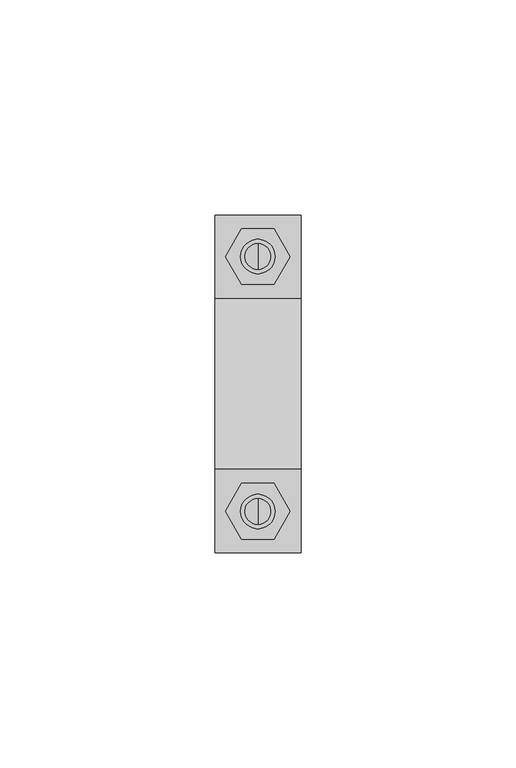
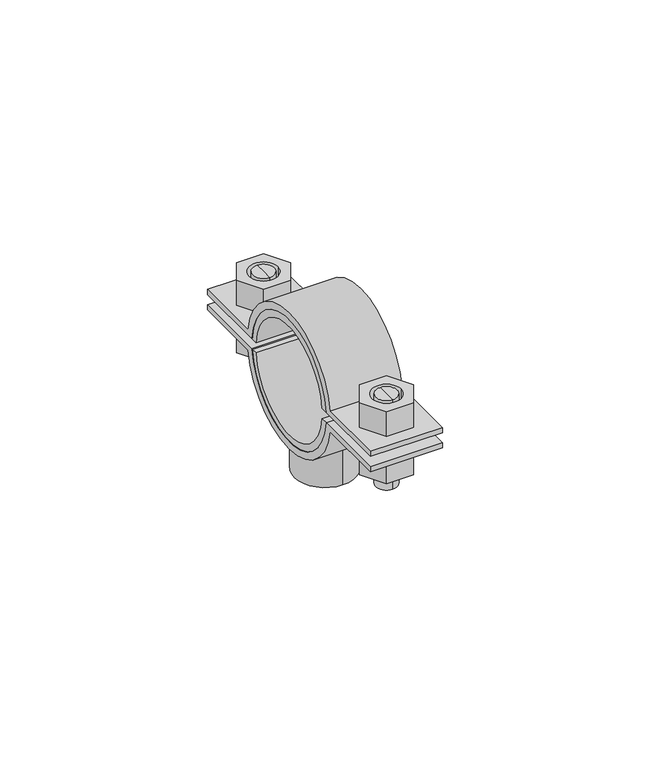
"""IFC4 building model written with IfcOpenShell, lengths in millimetres: valve geometry, Superfix DG2 Clamp Extra + : Superfix DG2 Clamp Extra +."""

from ifc_helpers import new_model, si_unit, point, frame, frame_2d, origin, origin_2d, place, context, project, spatial, polyline, circle_curve, trimmed, segment, composite_curve, outline, extrude, source, transform, mapped, element, save
from ifc_brep_helpers import plane_surface, cylinder_surface, advanced_brep


def valve_86aa1641(model_context):
    return source(origin(), model_context, "Body", "SolidModel", [
        advanced_brep(
        [(0.0, 32.625, 334.4), (0.0, 26.625, 334.4), (0.0, 26.625, 348.5), (0.0, 32.625, 348.5), (0.0, 29.625, 334.4)],
        [
            (0, 1, circle_curve(frame((0.0, 29.625, 334.4), z_axis=(0.0, 0.0, 1.0), x_axis=(0.0, 1.0, 0.0)), 3.0)),
            (1, 2),
            (2, 3, circle_curve(frame((0.0, 29.625, 348.5), z_axis=(0.0, 0.0, -1.0), x_axis=(0.0, 1.0, 0.0)), 3.0)),
            (3, 0),
            (1, 0, circle_curve(frame((0.0, 29.625, 334.4), z_axis=(0.0, 0.0, 1.0), x_axis=(0.0, 1.0, 0.0)), 3.0)),
            (3, 2, circle_curve(frame((0.0, 29.625, 348.5), z_axis=(0.0, 0.0, -1.0), x_axis=(0.0, 1.0, 0.0)), 3.0)),
            (0, 4),
            (4, 1),
        ],
        [
            cylinder_surface(frame((0.0, 29.625, 348.2806094), z_axis=(0.0, 0.0, 1.0), x_axis=(0.0, 1.0, 0.0)), 3.0),
            plane_surface(frame((0.0, 29.625, 334.4), z_axis=(0.0, 0.0, -1.0), x_axis=(0.0, 1.0, 0.0))),
            plane_surface(frame((13.75, -39.25, 348.5), z_axis=(0.0, 0.0, 1.0), x_axis=(-1.0, 0.0, 0.0))),
        ],
        [
            (0, [[1, 2, 3, 4]]),
            (0, [[5, -4, 6, -2]]),
            (1, [[-1, 7, 8]]),
            (1, [[-5, -8, -7]]),
            (2, [[-3, -6]]),
        ],
    ),
        advanced_brep(
        [(0.0, 26.625, 360.6), (0.0, 32.625, 360.6), (0.0, 32.625, 351.5), (0.0, 26.625, 351.5), (0.0, 29.625, 360.6)],
        [
            (0, 1, circle_curve(frame((0.0, 29.625, 360.6), z_axis=(0.0, 0.0, -1.0), x_axis=(0.0, 1.0, 0.0)), 3.0)),
            (1, 2),
            (2, 3, circle_curve(frame((0.0, 29.625, 351.5), z_axis=(0.0, 0.0, 1.0), x_axis=(0.0, 1.0, 0.0)), 3.0)),
            (3, 0),
            (1, 0, circle_curve(frame((0.0, 29.625, 360.6), z_axis=(0.0, 0.0, -1.0), x_axis=(0.0, 1.0, 0.0)), 3.0)),
            (3, 2, circle_curve(frame((0.0, 29.625, 351.5), z_axis=(0.0, 0.0, 1.0), x_axis=(0.0, 1.0, 0.0)), 3.0)),
            (0, 4),
            (4, 1),
        ],
        [
            cylinder_surface(frame((0.0, 29.625, 348.2806094), z_axis=(0.0, 0.0, 1.0), x_axis=(0.0, 1.0, 0.0)), 3.0),
            plane_surface(frame((0.0, 29.625, 360.6), z_axis=(0.0, 0.0, 1.0), x_axis=(0.0, 1.0, 0.0))),
            plane_surface(frame((13.75, 39.25, 351.5), z_axis=(0.0, 0.0, -1.0), x_axis=(-1.0, 0.0, 0.0))),
        ],
        [
            (0, [[1, 2, 3, 4]]),
            (0, [[5, -4, 6, -2]]),
            (1, [[-1, 7, 8]]),
            (1, [[-5, -8, -7]]),
            (2, [[-3, -6]]),
        ],
    ),
        advanced_brep(
        [(0.0, -32.625, 360.6), (0.0, -26.625, 360.6), (0.0, -26.625, 351.5), (0.0, -32.625, 351.5), (0.0, -29.625, 360.6)],
        [
            (0, 1, circle_curve(frame((0.0, -29.625, 360.6), z_axis=(0.0, 0.0, -1.0), x_axis=(0.0, -1.0, 0.0)), 3.0)),
            (1, 2),
            (2, 3, circle_curve(frame((0.0, -29.625, 351.5), z_axis=(0.0, 0.0, 1.0), x_axis=(0.0, -1.0, 0.0)), 3.0)),
            (3, 0),
            (1, 0, circle_curve(frame((0.0, -29.625, 360.6), z_axis=(0.0, 0.0, -1.0), x_axis=(0.0, -1.0, 0.0)), 3.0)),
            (3, 2, circle_curve(frame((0.0, -29.625, 351.5), z_axis=(0.0, 0.0, 1.0), x_axis=(0.0, -1.0, 0.0)), 3.0)),
            (0, 4),
            (4, 1),
        ],
        [
            cylinder_surface(frame((0.0, -29.625, 348.2806094), z_axis=(0.0, 0.0, -1.0), x_axis=(0.0, -1.0, 0.0)), 3.0),
            plane_surface(frame((0.0, -29.625, 360.6), z_axis=(0.0, 0.0, 1.0), x_axis=(0.0, -1.0, 0.0))),
            plane_surface(frame((13.75, 39.25, 351.5), z_axis=(0.0, 0.0, -1.0), x_axis=(-1.0, 0.0, 0.0))),
        ],
        [
            (0, [[1, 2, 3, 4]]),
            (0, [[5, -4, 6, -2]]),
            (1, [[-1, 7, 8]]),
            (1, [[-5, -8, -7]]),
            (2, [[-3, -6]]),
        ],
    ),
        advanced_brep(
        [(0.0, -26.625, 334.4), (0.0, -32.625, 334.4), (0.0, -32.625, 348.5), (0.0, -26.625, 348.5), (0.0, -29.625, 334.4)],
        [
            (0, 1, circle_curve(frame((0.0, -29.625, 334.4), z_axis=(0.0, 0.0, 1.0), x_axis=(0.0, -1.0, 0.0)), 3.0)),
            (1, 2),
            (2, 3, circle_curve(frame((0.0, -29.625, 348.5), z_axis=(0.0, 0.0, -1.0), x_axis=(0.0, -1.0, 0.0)), 3.0)),
            (3, 0),
            (1, 0, circle_curve(frame((0.0, -29.625, 334.4), z_axis=(0.0, 0.0, 1.0), x_axis=(0.0, -1.0, 0.0)), 3.0)),
            (3, 2, circle_curve(frame((0.0, -29.625, 348.5), z_axis=(0.0, 0.0, -1.0), x_axis=(0.0, -1.0, 0.0)), 3.0)),
            (0, 4),
            (4, 1),
        ],
        [
            cylinder_surface(frame((0.0, -29.625, 348.2806094), z_axis=(0.0, 0.0, -1.0), x_axis=(0.0, -1.0, 0.0)), 3.0),
            plane_surface(frame((0.0, -29.625, 334.4), z_axis=(0.0, 0.0, -1.0), x_axis=(0.0, -1.0, 0.0))),
            plane_surface(frame((13.75, -39.25, 348.5), z_axis=(0.0, 0.0, 1.0), x_axis=(-1.0, 0.0, 0.0))),
        ],
        [
            (0, [[1, 2, 3, 4]]),
            (0, [[5, -4, 6, -2]]),
            (1, [[-1, 7, 8]]),
            (1, [[-5, -8, -7]]),
            (2, [[-3, -6]]),
        ],
    ),
        extrude(outline(composite_curve([segment(trimmed(circle_curve(frame_2d((0.0, 350.0)), 18.0), [point((-17.9373911, 348.5))], [point((17.9373911, 348.5))], True, "CARTESIAN"), True, "CONTINUOUS"), segment(polyline([(17.9373911, 348.5), (39.25, 348.5), (39.25, 347.0), (19.7737199, 347.0)]), True, "CONTINUOUS"), segment(trimmed(circle_curve(frame_2d((0.0, 350.0)), 20.0), [point((19.7737199, 347.0))], [point((-19.7737199, 347.0))], False, "CARTESIAN"), True, "CONTINUOUS"), segment(polyline([(-19.7737199, 347.0), (-39.25, 347.0), (-39.25, 348.5), (-17.9373911, 348.5)]), True, "CONTINUOUS")], self_intersect=False)), frame((-10.0, 0.0, 0.0), z_axis=(1.0, 0.0, 0.0), x_axis=(0.0, 1.0, 0.0)), (0.0, 0.0, 1.0), 20.0),
        extrude(outline(composite_curve([segment(trimmed(circle_curve(frame_2d((0.0, 350.0)), 18.0), [point((17.9373911, 351.5))], [point((-17.9373911, 351.5))], True, "CARTESIAN"), True, "CONTINUOUS"), segment(polyline([(-17.9373911, 351.5), (-39.25, 351.5), (-39.25, 353.0), (-19.7737199, 353.0)]), True, "CONTINUOUS"), segment(trimmed(circle_curve(frame_2d((0.0, 350.0)), 20.0), [point((-19.7737199, 353.0))], [point((19.7737199, 353.0))], False, "CARTESIAN"), True, "CONTINUOUS"), segment(polyline([(19.7737199, 353.0), (39.25, 353.0), (39.25, 351.5), (17.9373911, 351.5)]), True, "CONTINUOUS")], self_intersect=False)), frame((-10.0, 0.0, 0.0), z_axis=(1.0, 0.0, 0.0), x_axis=(0.0, 1.0, 0.0)), (0.0, 0.0, 1.0), 20.0),
        extrude(outline(polyline([(7.5055535, -29.625), (3.7527767, -36.125), (-3.7527767, -36.125), (-7.5055535, -29.625), (-3.7527767, -23.125), (3.7527767, -23.125), (7.5055535, -29.625)]), holes=[composite_curve([segment(trimmed(circle_curve(frame_2d((0.0, -29.625)), 4.0), [point((4.0, -29.625))], [point((-4.0, -29.625))], True, "CARTESIAN"), True, "CONTINUOUS"), segment(trimmed(circle_curve(frame_2d((0.0, -29.625)), 4.0), [point((-4.0, -29.625))], [point((4.0, -29.625))], True, "CARTESIAN"), True, "CONTINUOUS")], self_intersect=False)]), frame((0.0, 0.0, 353.0), z_axis=(0.0, 0.0, 1.0), x_axis=(1.0, 0.0, 0.0)), (0.0, 0.0, 1.0), 7.6),
        extrude(outline(polyline([(7.5055535, 29.625), (3.7527767, 23.125), (-3.7527767, 23.125), (-7.5055535, 29.625), (-3.7527767, 36.125), (3.7527767, 36.125), (7.5055535, 29.625)]), holes=[composite_curve([segment(trimmed(circle_curve(frame_2d((0.0, 29.625)), 4.0), [point((4.0, 29.625))], [point((-4.0, 29.625))], True, "CARTESIAN"), True, "CONTINUOUS"), segment(trimmed(circle_curve(frame_2d((0.0, 29.625)), 4.0), [point((-4.0, 29.625))], [point((4.0, 29.625))], True, "CARTESIAN"), True, "CONTINUOUS")], self_intersect=False)]), frame((0.0, 0.0, 353.0), z_axis=(0.0, 0.0, 1.0), x_axis=(1.0, 0.0, 0.0)), (0.0, 0.0, 1.0), 7.6),
        extrude(outline(polyline([(7.5055535, -29.625), (3.7527767, -36.125), (-3.7527767, -36.125), (-7.5055535, -29.625), (-3.7527767, -23.125), (3.7527767, -23.125), (7.5055535, -29.625)]), holes=[composite_curve([segment(trimmed(circle_curve(frame_2d((0.0, -29.625)), 4.0), [point((4.0, -29.625))], [point((-4.0, -29.625))], True, "CARTESIAN"), True, "CONTINUOUS"), segment(trimmed(circle_curve(frame_2d((0.0, -29.625)), 4.0), [point((-4.0, -29.625))], [point((4.0, -29.625))], True, "CARTESIAN"), True, "CONTINUOUS")], self_intersect=False)]), frame((0.0, 0.0, 339.4), z_axis=(0.0, 0.0, 1.0), x_axis=(1.0, 0.0, 0.0)), (0.0, 0.0, 1.0), 7.6),
        extrude(outline(polyline([(7.5055535, 29.625), (3.7527767, 23.125), (-3.7527767, 23.125), (-7.5055535, 29.625), (-3.7527767, 36.125), (3.7527767, 36.125), (7.5055535, 29.625)]), holes=[composite_curve([segment(trimmed(circle_curve(frame_2d((0.0, 29.625)), 4.0), [point((4.0, 29.625))], [point((-4.0, 29.625))], True, "CARTESIAN"), True, "CONTINUOUS"), segment(trimmed(circle_curve(frame_2d((0.0, 29.625)), 4.0), [point((-4.0, 29.625))], [point((4.0, 29.625))], True, "CARTESIAN"), True, "CONTINUOUS")], self_intersect=False)]), frame((0.0, 0.0, 339.4), z_axis=(0.0, 0.0, 1.0), x_axis=(1.0, 0.0, 0.0)), (0.0, 0.0, 1.0), 7.6),
        extrude(outline(composite_curve([segment(trimmed(circle_curve(origin_2d(), 8.5), [point((0.0, 8.5))], [point((0.0, -8.5))], False, "CARTESIAN"), True, "CONTINUOUS"), segment(trimmed(circle_curve(origin_2d(), 8.5), [point((0.0, -8.5))], [point((0.0, 8.5))], False, "CARTESIAN"), True, "CONTINUOUS")], self_intersect=False), holes=[composite_curve([segment(trimmed(circle_curve(origin_2d(), 5.0), [point((0.0, 5.0))], [point((0.0, -5.0))], True, "CARTESIAN"), True, "CONTINUOUS"), segment(trimmed(circle_curve(origin_2d(), 5.0), [point((0.0, -5.0))], [point((0.0, 5.0))], True, "CARTESIAN"), True, "CONTINUOUS")], self_intersect=False)]), frame((0.0, 0.0, 321.0), z_axis=(0.0, 0.0, 1.0), x_axis=(1.0, 0.0, 0.0)), (0.0, 0.0, 1.0), 11.5),
        extrude(outline(composite_curve([segment(trimmed(circle_curve(frame_2d((0.0, 350.0)), 16.0), [point((15.9295323, 351.5))], [point((-15.9295323, 351.5))], True, "CARTESIAN"), True, "CONTINUOUS"), segment(polyline([(-15.9295323, 351.5), (-17.9373911, 351.5)]), True, "CONTINUOUS"), segment(trimmed(circle_curve(frame_2d((0.0, 350.0)), 18.0), [point((-17.9373911, 351.5))], [point((17.9373911, 351.5))], False, "CARTESIAN"), True, "CONTINUOUS"), segment(polyline([(17.9373911, 351.5), (15.9295323, 351.5)]), True, "CONTINUOUS")], self_intersect=False)), frame((-10.0, 0.0, 0.0), z_axis=(1.0, 0.0, 0.0), x_axis=(0.0, 1.0, 0.0)), (0.0, 0.0, 1.0), 20.0),
        extrude(outline(composite_curve([segment(polyline([(15.9295323, 348.5), (17.9373911, 348.5)]), True, "CONTINUOUS"), segment(trimmed(circle_curve(frame_2d((0.0, 350.0)), 18.0), [point((17.9373911, 348.5))], [point((-17.9373911, 348.5))], False, "CARTESIAN"), True, "CONTINUOUS"), segment(polyline([(-17.9373911, 348.5), (-15.9295323, 348.5)]), True, "CONTINUOUS"), segment(trimmed(circle_curve(frame_2d((0.0, 350.0)), 16.0), [point((-15.9295323, 348.5))], [point((15.9295323, 348.5))], True, "CARTESIAN"), True, "CONTINUOUS")], self_intersect=False)), frame((-10.0, 0.0, 0.0), z_axis=(1.0, 0.0, 0.0), x_axis=(0.0, 1.0, 0.0)), (0.0, 0.0, 1.0), 20.0),
    ])


if __name__ == "__main__":
    model = new_model("IFC4")
    model_context = context("Model", 3, world=origin())
    ifc_project = project(units=[si_unit("LENGTHUNIT", "METRE", prefix="MILLI")], contexts=[model_context])
    site = spatial("IfcSite", under=ifc_project)
    building = spatial("IfcBuilding", under=site)
    placement = place(None, origin())
    valve_shape = valve_86aa1641(model_context)
    element("IfcValve", 1, ObjectType="Superfix DG2 Clamp Extra + : Superfix DG2 Clamp Extra +", at=placement, inside=building, context=model_context, shape_type="MappedRepresentation", body=[
        mapped(valve_shape, transform((0.0, 0.0, 0.0), x_axis=(1.0, 0.0, 0.0), y_axis=(0.0, 1.0, 0.0), z_axis=(0.0, 0.0, 1.0))),
    ])
    save(model, "model.ifc")
